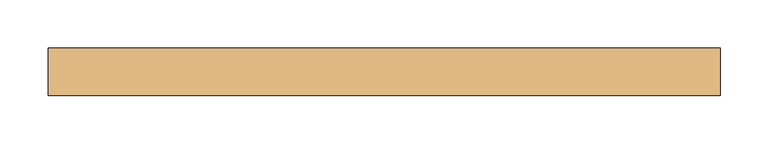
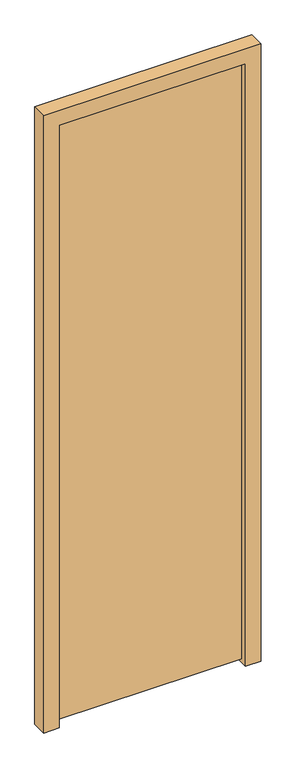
"""IFC4 building model written with IfcOpenShell, lengths in millimetres: door geometry, Dr_Дверь_v2.1 : ДНСГУТД Оп Прг 21-7 Тех EIS60."""

from ifc_helpers import new_model, si_unit, frame, origin, place, context, project, spatial, polyline, outline, extrude, source, transform, mapped, element, save


def door_fe42e1f0(model_context):
    return source(origin(), model_context, "Body", "SweptSolid", [
        extrude(outline(polyline([(0.0, -175.0), (2050.0, -175.0), (2050.0, 425.0), (0.0, 425.0), (0.0, 475.0), (2100.0, 475.0), (2100.0, -225.0), (0.0, -225.0), (0.0, -175.0)])), frame((0.0, 25.0, 0.0), z_axis=(0.0, 1.0, 0.0), x_axis=(0.0, 0.0, 1.0)), (0.0, 0.0, 1.0), 50.0),
        extrude(outline(polyline([(-175.0, 45.0), (-175.0, 75.0), (425.0, 75.0), (425.0, 45.0), (-175.0, 45.0)])), frame((0.0, 0.0, 14.0), z_axis=(0.0, 0.0, 1.0), x_axis=(1.0, 0.0, 0.0)), (0.0, 0.0, 1.0), 2036.0),
    ])


if __name__ == "__main__":
    model = new_model("IFC4")
    model_context = context("Model", 3, world=origin())
    ifc_project = project(units=[si_unit("LENGTHUNIT", "METRE", prefix="MILLI")], contexts=[model_context])
    site = spatial("IfcSite", under=ifc_project)
    building = spatial("IfcBuilding", under=site)
    placement = place(None, origin())
    door_shape = door_fe42e1f0(model_context)
    element("IfcDoor", 1, ObjectType="Dr_Дверь_v2.1 : ДНСГУТД Оп Прг 21-7 Тех EIS60", at=placement, inside=building, context=model_context, shape_type="MappedRepresentation", body=[
        mapped(door_shape, transform((0.0, 0.0, 0.0), x_axis=(1.0, 0.0, 0.0), y_axis=(0.0, 1.0, 0.0), z_axis=(0.0, 0.0, 1.0))),
    ])
    save(model, "model.ifc")
